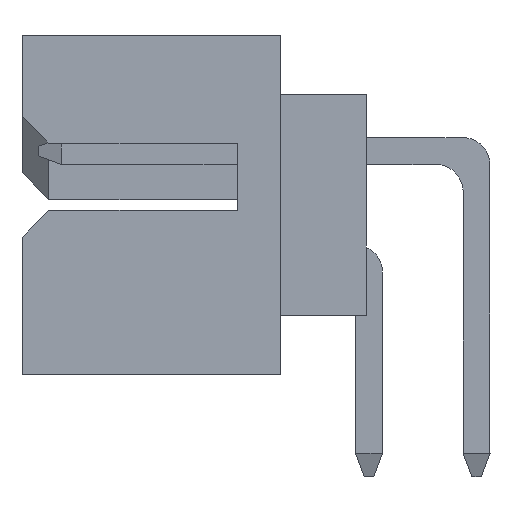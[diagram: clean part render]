
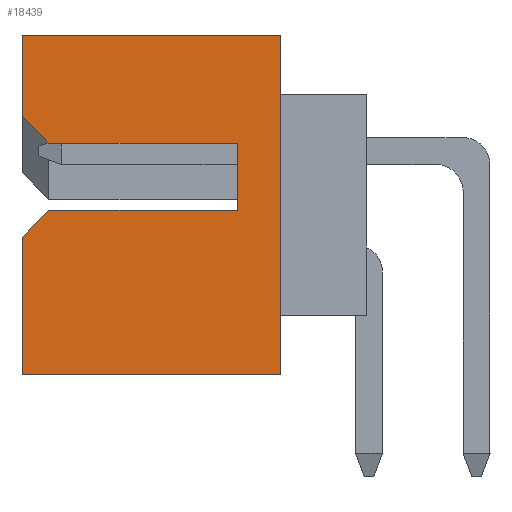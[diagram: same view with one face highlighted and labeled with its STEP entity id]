
A CAD part, left-side view. The second image highlights one B-rep face of the part: STEP entity #18439.
In plain terms, the highlighted planar face has unit normal (-1, 0, 0).
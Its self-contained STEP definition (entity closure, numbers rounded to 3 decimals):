
#272 = EDGE_CURVE ( 'NONE', #4216, #3542, #30533, .T. ) ;
#273 = EDGE_CURVE ( 'NONE', #4249, #3639, #30536, .T. ) ;
#286 = EDGE_CURVE ( 'NONE', #3639, #3602, #30504, .T. ) ;
#315 = EDGE_CURVE ( 'NONE', #3602, #4213, #30618, .T. ) ;
#317 = EDGE_CURVE ( 'NONE', #3542, #3628, #30633, .T. ) ;
#328 = EDGE_CURVE ( 'NONE', #4190, #3628, #30632, .T. ) ;
#2685 = EDGE_CURVE ( 'NONE', #4207, #4160, #23912, .T. ) ;
#2761 = EDGE_CURVE ( 'NONE', #4213, #4160, #23981, .T. ) ;
#2872 = EDGE_CURVE ( 'NONE', #4190, #4249, #24174, .T. ) ;
#2895 = EDGE_CURVE ( 'NONE', #4207, #4216, #24209, .T. ) ;
#3542 = VERTEX_POINT ( 'NONE', #11696 ) ;
#3602 = VERTEX_POINT ( 'NONE', #11763 ) ;
#3628 = VERTEX_POINT ( 'NONE', #11773 ) ;
#3639 = VERTEX_POINT ( 'NONE', #11797 ) ;
#4160 = VERTEX_POINT ( 'NONE', #20395 ) ;
#4190 = VERTEX_POINT ( 'NONE', #19886 ) ;
#4207 = VERTEX_POINT ( 'NONE', #19917 ) ;
#4213 = VERTEX_POINT ( 'NONE', #19918 ) ;
#4216 = VERTEX_POINT ( 'NONE', #19931 ) ;
#4249 = VERTEX_POINT ( 'NONE', #19945 ) ;
#11696 = CARTESIAN_POINT ( 'NONE',  ( -23.063, -3.083, 0. ) ) ;
#11763 = CARTESIAN_POINT ( 'NONE',  ( -23.063, -2.283, 4.3 ) ) ;
#11773 = CARTESIAN_POINT ( 'NONE',  ( -23.063, 1.717, 0. ) ) ;
#11797 = CARTESIAN_POINT ( 'NONE',  ( -23.063, -2.283, 3.05 ) ) ;
#14005 = EDGE_LOOP ( 'NONE', ( #34956, #34948, #34968, #34826, #35125, #34782, #35084, #34978, #35133, #35046 ) ) ;
#17962 = DIRECTION ( 'NONE',  ( 1., 0., 0. ) ) ;
#17964 = PLANE ( 'NONE',  #31797 ) ;
#17969 = DIRECTION ( 'NONE',  ( 0., 0., -1. ) ) ;
#17975 = FACE_OUTER_BOUND ( 'NONE', #14005, .T. ) ;
#17991 = CARTESIAN_POINT ( 'NONE',  ( -23.063, -3.083, 6.3 ) ) ;
#18439 = ADVANCED_FACE ( 'NONE', ( #17975 ), #17964, .F. ) ;
#19886 = CARTESIAN_POINT ( 'NONE',  ( -23.063, 1.717, 2.55 ) ) ;
#19917 = CARTESIAN_POINT ( 'NONE',  ( -23.063, 1.717, 6.3 ) ) ;
#19918 = CARTESIAN_POINT ( 'NONE',  ( -23.063, 1.217, 4.3 ) ) ;
#19931 = CARTESIAN_POINT ( 'NONE',  ( -23.063, -3.083, 6.3 ) ) ;
#19945 = CARTESIAN_POINT ( 'NONE',  ( -23.063, 1.217, 3.05 ) ) ;
#20395 = CARTESIAN_POINT ( 'NONE',  ( -23.063, 1.717, 4.8 ) ) ;
#23886 = CARTESIAN_POINT ( 'NONE',  ( -23.063, 1.717, 6.3 ) ) ;
#23908 = DIRECTION ( 'NONE',  ( 0., 0., -1. ) ) ;
#23912 = LINE ( 'NONE', #23886, #31725 ) ;
#23981 = LINE ( 'NONE', #23982, #31247 ) ;
#23982 = CARTESIAN_POINT ( 'NONE',  ( -23.063, 1.217, 4.3 ) ) ;
#23983 = DIRECTION ( 'NONE',  ( 0., 0.707, 0.707 ) ) ;
#24141 = CARTESIAN_POINT ( 'NONE',  ( -23.063, 1.717, 2.55 ) ) ;
#24153 = DIRECTION ( 'NONE',  ( 0., -0.707, 0.707 ) ) ;
#24174 = LINE ( 'NONE', #24141, #31275 ) ;
#24189 = DIRECTION ( 'NONE',  ( 0., -1., 0. ) ) ;
#24209 = LINE ( 'NONE', #24213, #31318 ) ;
#24213 = CARTESIAN_POINT ( 'NONE',  ( -23.063, -3.083, 6.3 ) ) ;
#27616 = VECTOR ( 'NONE', #30534, 1000. ) ;
#27619 = VECTOR ( 'NONE', #30507, 1000. ) ;
#27654 = VECTOR ( 'NONE', #30538, 1000. ) ;
#27663 = VECTOR ( 'NONE', #30660, 1000. ) ;
#27667 = VECTOR ( 'NONE', #30614, 1000. ) ;
#27676 = VECTOR ( 'NONE', #30613, 1000. ) ;
#30504 = LINE ( 'NONE', #30510, #27654 ) ;
#30506 = CARTESIAN_POINT ( 'NONE',  ( -23.063, -3.083, 3.05 ) ) ;
#30507 = DIRECTION ( 'NONE',  ( 0., -1., 0. ) ) ;
#30510 = CARTESIAN_POINT ( 'NONE',  ( -23.063, -2.283, -0.01 ) ) ;
#30533 = LINE ( 'NONE', #30537, #27616 ) ;
#30534 = DIRECTION ( 'NONE',  ( 0., 0., -1. ) ) ;
#30536 = LINE ( 'NONE', #30506, #27619 ) ;
#30537 = CARTESIAN_POINT ( 'NONE',  ( -23.063, -3.083, 6.3 ) ) ;
#30538 = DIRECTION ( 'NONE',  ( 0., 0., 1. ) ) ;
#30613 = DIRECTION ( 'NONE',  ( 0., 1., 0. ) ) ;
#30614 = DIRECTION ( 'NONE',  ( 0., 1., 0. ) ) ;
#30615 = CARTESIAN_POINT ( 'NONE',  ( -23.063, -3.083, 0. ) ) ;
#30618 = LINE ( 'NONE', #30641, #27676 ) ;
#30632 = LINE ( 'NONE', #30637, #27663 ) ;
#30633 = LINE ( 'NONE', #30615, #27667 ) ;
#30637 = CARTESIAN_POINT ( 'NONE',  ( -23.063, 1.717, 3.05 ) ) ;
#30641 = CARTESIAN_POINT ( 'NONE',  ( -23.063, -3.083, 4.3 ) ) ;
#30660 = DIRECTION ( 'NONE',  ( 0., 0., -1. ) ) ;
#31247 = VECTOR ( 'NONE', #23983, 1000. ) ;
#31275 = VECTOR ( 'NONE', #24153, 1000. ) ;
#31318 = VECTOR ( 'NONE', #24189, 1000. ) ;
#31725 = VECTOR ( 'NONE', #23908, 1000. ) ;
#31797 = AXIS2_PLACEMENT_3D ( 'NONE', #17991, #17962, #17969 ) ;
#34782 = ORIENTED_EDGE ( 'NONE', *, *, #2685, .T. ) ;
#34826 = ORIENTED_EDGE ( 'NONE', *, *, #272, .F. ) ;
#34948 = ORIENTED_EDGE ( 'NONE', *, *, #328, .T. ) ;
#34956 = ORIENTED_EDGE ( 'NONE', *, *, #2872, .F. ) ;
#34968 = ORIENTED_EDGE ( 'NONE', *, *, #317, .F. ) ;
#34978 = ORIENTED_EDGE ( 'NONE', *, *, #315, .F. ) ;
#35046 = ORIENTED_EDGE ( 'NONE', *, *, #273, .F. ) ;
#35084 = ORIENTED_EDGE ( 'NONE', *, *, #2761, .F. ) ;
#35125 = ORIENTED_EDGE ( 'NONE', *, *, #2895, .F. ) ;
#35133 = ORIENTED_EDGE ( 'NONE', *, *, #286, .F. ) ;
